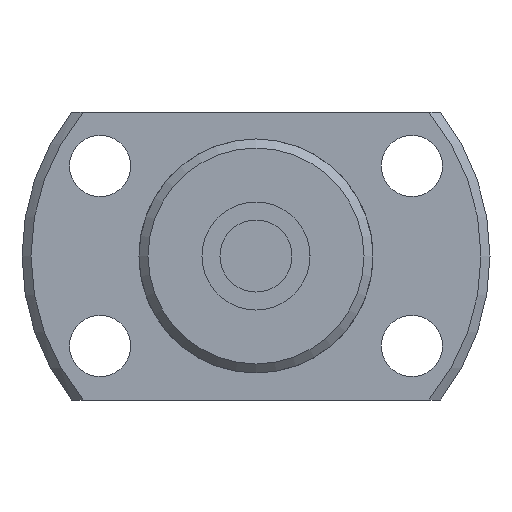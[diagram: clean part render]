
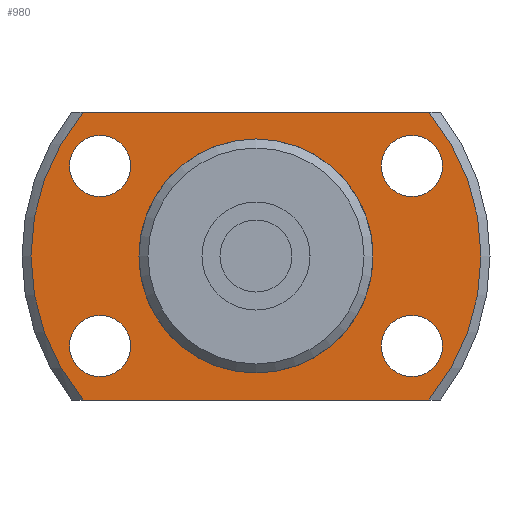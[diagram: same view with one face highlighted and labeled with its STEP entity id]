
A CAD part, left-side view. The second image highlights one B-rep face of the part: STEP entity #980.
In plain terms, the highlighted planar face has unit normal (-1, 0, 0).
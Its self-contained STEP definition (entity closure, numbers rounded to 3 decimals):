
#87=LINE('',#1711,#129);
#88=LINE('',#1715,#130);
#129=VECTOR('',#1366,1000.);
#130=VECTOR('',#1369,1000.);
#280=ORIENTED_EDGE('',*,*,#493,.T.);
#281=ORIENTED_EDGE('',*,*,#494,.T.);
#282=ORIENTED_EDGE('',*,*,#495,.T.);
#283=ORIENTED_EDGE('',*,*,#496,.T.);
#284=ORIENTED_EDGE('',*,*,#482,.F.);
#285=ORIENTED_EDGE('',*,*,#497,.F.);
#286=ORIENTED_EDGE('',*,*,#498,.F.);
#287=ORIENTED_EDGE('',*,*,#499,.F.);
#288=ORIENTED_EDGE('',*,*,#476,.T.);
#476=EDGE_CURVE('',#594,#594,#668,.T.);
#482=EDGE_CURVE('',#599,#600,#671,.T.);
#493=EDGE_CURVE('',#609,#609,#677,.T.);
#494=EDGE_CURVE('',#610,#610,#678,.T.);
#495=EDGE_CURVE('',#611,#611,#679,.T.);
#496=EDGE_CURVE('',#612,#612,#680,.T.);
#497=EDGE_CURVE('',#613,#599,#87,.T.);
#498=EDGE_CURVE('',#614,#613,#681,.T.);
#499=EDGE_CURVE('',#600,#614,#88,.T.);
#594=VERTEX_POINT('',#1654);
#599=VERTEX_POINT('',#1668);
#600=VERTEX_POINT('',#1670);
#609=VERTEX_POINT('',#1704);
#610=VERTEX_POINT('',#1706);
#611=VERTEX_POINT('',#1708);
#612=VERTEX_POINT('',#1710);
#613=VERTEX_POINT('',#1712);
#614=VERTEX_POINT('',#1714);
#668=CIRCLE('',#1103,6.25);
#671=CIRCLE('',#1107,12.5);
#677=CIRCLE('',#1118,1.7);
#678=CIRCLE('',#1119,1.7);
#679=CIRCLE('',#1120,1.7);
#680=CIRCLE('',#1121,1.7);
#681=CIRCLE('',#1122,12.5);
#753=EDGE_LOOP('',(#280));
#754=EDGE_LOOP('',(#281));
#755=EDGE_LOOP('',(#282));
#756=EDGE_LOOP('',(#283));
#757=EDGE_LOOP('',(#284,#285,#286,#287));
#758=EDGE_LOOP('',(#288));
#861=FACE_BOUND('',#753,.T.);
#862=FACE_BOUND('',#754,.T.);
#863=FACE_BOUND('',#755,.T.);
#864=FACE_BOUND('',#756,.T.);
#865=FACE_BOUND('',#757,.T.);
#866=FACE_BOUND('',#758,.T.);
#927=PLANE('',#1117);
#980=ADVANCED_FACE('',(#861,#862,#863,#864,#865,#866),#927,.F.);
#1103=AXIS2_PLACEMENT_3D('',#1653,#1324,#1325);
#1107=AXIS2_PLACEMENT_3D('',#1669,#1334,#1335);
#1117=AXIS2_PLACEMENT_3D('',#1702,#1356,#1357);
#1118=AXIS2_PLACEMENT_3D('',#1703,#1358,#1359);
#1119=AXIS2_PLACEMENT_3D('',#1705,#1360,#1361);
#1120=AXIS2_PLACEMENT_3D('',#1707,#1362,#1363);
#1121=AXIS2_PLACEMENT_3D('',#1709,#1364,#1365);
#1122=AXIS2_PLACEMENT_3D('',#1713,#1367,#1368);
#1324=DIRECTION('',(1.,0.,0.));
#1325=DIRECTION('',(0.,0.,-1.));
#1334=DIRECTION('',(1.,0.,0.));
#1335=DIRECTION('',(0.,0.,-1.));
#1356=DIRECTION('',(1.,0.,0.));
#1357=DIRECTION('',(0.,0.,-1.));
#1358=DIRECTION('',(1.,0.,0.));
#1359=DIRECTION('',(0.,0.,-1.));
#1360=DIRECTION('',(1.,0.,0.));
#1361=DIRECTION('',(0.,0.,-1.));
#1362=DIRECTION('',(1.,0.,0.));
#1363=DIRECTION('',(0.,0.,-1.));
#1364=DIRECTION('',(1.,0.,0.));
#1365=DIRECTION('',(0.,0.,-1.));
#1366=DIRECTION('',(0.,1.,0.));
#1367=DIRECTION('',(1.,0.,0.));
#1368=DIRECTION('',(0.,0.,-1.));
#1369=DIRECTION('',(0.,-1.,0.));
#1653=CARTESIAN_POINT('',(13.,0.,0.));
#1654=CARTESIAN_POINT('',(13.,0.,-6.25));
#1668=CARTESIAN_POINT('',(13.,9.605,-8.));
#1669=CARTESIAN_POINT('',(13.,0.,0.));
#1670=CARTESIAN_POINT('',(13.,9.605,8.));
#1702=CARTESIAN_POINT('',(13.,6.25,0.));
#1703=CARTESIAN_POINT('',(13.,-8.66,-5.));
#1704=CARTESIAN_POINT('',(13.,-8.66,-6.7));
#1705=CARTESIAN_POINT('',(13.,-8.66,5.));
#1706=CARTESIAN_POINT('',(13.,-8.66,3.3));
#1707=CARTESIAN_POINT('',(13.,8.66,-5.));
#1708=CARTESIAN_POINT('',(13.,8.66,-6.7));
#1709=CARTESIAN_POINT('',(13.,8.66,5.));
#1710=CARTESIAN_POINT('',(13.,8.66,3.3));
#1711=CARTESIAN_POINT('',(13.,-18.,-8.));
#1712=CARTESIAN_POINT('',(13.,-9.605,-8.));
#1713=CARTESIAN_POINT('',(13.,0.,0.));
#1714=CARTESIAN_POINT('',(13.,-9.605,8.));
#1715=CARTESIAN_POINT('',(13.,18.,8.));
